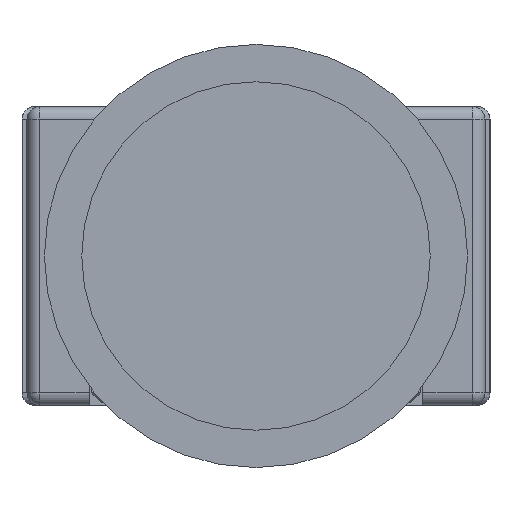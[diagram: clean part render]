
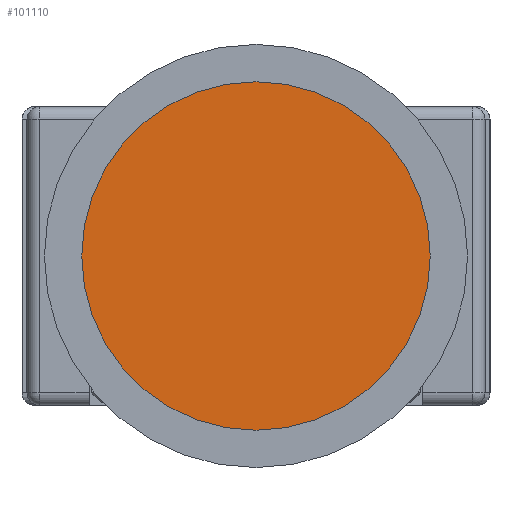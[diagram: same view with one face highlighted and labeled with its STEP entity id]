
A CAD part, left-side view. The second image highlights one B-rep face of the part: STEP entity #101110.
In plain terms, the highlighted planar face has unit normal (-1, 0, 0).
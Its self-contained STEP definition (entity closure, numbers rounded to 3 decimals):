
#100470=CARTESIAN_POINT('',(8.757,73.732,
-7.));
#100480=VERTEX_POINT('',#100470);
#100660=CARTESIAN_POINT('',(8.757,73.732,
7.));
#100670=VERTEX_POINT('',#100660);
#100700=CARTESIAN_POINT('',(8.757,73.732,
0.));
#100710=DIRECTION('',(-1.,0.,0.));
#100720=DIRECTION('',(0.,0.,-1.));
#100730=AXIS2_PLACEMENT_3D('',#100700,#100710,#100720);
#100740=CIRCLE('',#100730,7.);
#100750=EDGE_CURVE('',#100670,#100480,#100740,.T.);
#101010=CARTESIAN_POINT('',(8.757,79.657,0.));
#101020=DIRECTION('',(-1.,0.,0.));
#101030=DIRECTION('',(0.,1.,0.));
#101040=AXIS2_PLACEMENT_3D('',#101010,#101020,#101030);
#101050=PLANE('',#101040);
#101060=EDGE_CURVE('',#100480,#100670,#100740,.T.);
#101070=ORIENTED_EDGE('',*,*,#101060,.T.);
#101080=ORIENTED_EDGE('',*,*,#100750,.T.);
#101090=EDGE_LOOP('',(#101080,#101070));
#101100=FACE_OUTER_BOUND('',#101090,.T.);
#101110=ADVANCED_FACE('',(#101100),#101050,.T.);
